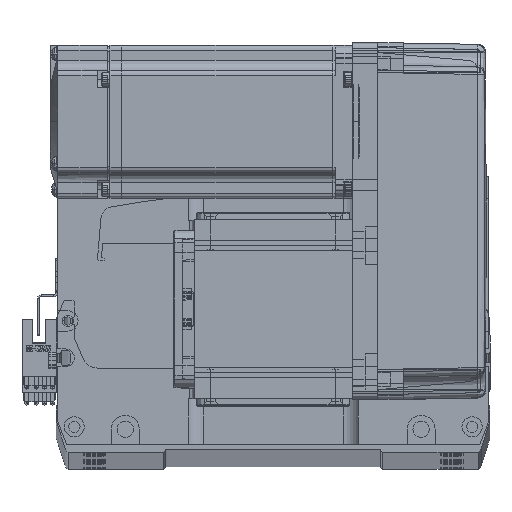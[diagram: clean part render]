
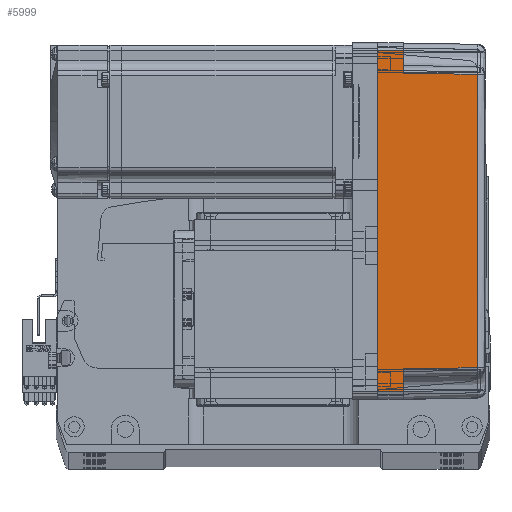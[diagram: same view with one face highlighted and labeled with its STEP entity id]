
A CAD part, top view. The second image highlights one B-rep face of the part: STEP entity #5999.
In plain terms, the highlighted planar face has unit normal (0.018, 0, 1) as drawn and (0, -1, 0.017) by its records, which use the part's own axes.
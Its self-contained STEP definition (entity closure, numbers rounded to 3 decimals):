
#244 = DIRECTION ( 'NONE',  ( 0., -0.017, -1. ) ) ;
#470 = CARTESIAN_POINT ( 'NONE',  ( -66.959, -35.958, 2.39 ) ) ;
#4026 = VERTEX_POINT ( 'NONE', #66691 ) ;
#5544 = EDGE_LOOP ( 'NONE', ( #15750, #24665, #47698, #39884, #71488, #9469, #30905, #62389 ) ) ;
#5999 = ADVANCED_FACE ( 'NONE', ( #45648 ), #67402, .T. ) ;
#6943 = CARTESIAN_POINT ( 'NONE',  ( -66.826, -35.825, 10. ) ) ;
#7637 = LINE ( 'NONE', #37866, #58545 ) ;
#7668 = CARTESIAN_POINT ( 'NONE',  ( -57.495, -35.32, 38.985 ) ) ;
#8315 = EDGE_CURVE ( 'NONE', #58410, #24458, #19275, .T. ) ;
#8329 = DIRECTION ( 'NONE',  ( -0.017, 0.017, 1. ) ) ;
#8974 = EDGE_CURVE ( 'NONE', #42700, #58172, #64795, .T. ) ;
#8986 = EDGE_CURVE ( 'NONE', #4026, #16274, #35351, .T. ) ;
#9469 = ORIENTED_EDGE ( 'NONE', *, *, #64857, .T. ) ;
#11769 = CARTESIAN_POINT ( 'NONE',  ( -19.165, -35.316, 39.181 ) ) ;
#15289 = VECTOR ( 'NONE', #31739, 1000. ) ;
#15750 = ORIENTED_EDGE ( 'NONE', *, *, #8315, .T. ) ;
#16274 = VERTEX_POINT ( 'NONE', #6943 ) ;
#16501 = VECTOR ( 'NONE', #62561, 1000. ) ;
#17588 = VERTEX_POINT ( 'NONE', #28570 ) ;
#17760 = EDGE_CURVE ( 'NONE', #58410, #4026, #22441, .T. ) ;
#17967 = CARTESIAN_POINT ( 'NONE',  ( 67., -36., 0. ) ) ;
#19275 = LINE ( 'NONE', #17967, #34564 ) ;
#22441 = LINE ( 'NONE', #27224, #15289 ) ;
#23050 = DIRECTION ( 'NONE',  ( -1., 0., 0. ) ) ;
#23546 = EDGE_CURVE ( 'NONE', #73737, #42700, #60549, .T. ) ;
#24458 = VERTEX_POINT ( 'NONE', #55090 ) ;
#24665 = ORIENTED_EDGE ( 'NONE', *, *, #69863, .T. ) ;
#25814 = CARTESIAN_POINT ( 'NONE',  ( 67., -36., 0. ) ) ;
#27224 = CARTESIAN_POINT ( 'NONE',  ( 0., -36., 0. ) ) ;
#28570 = CARTESIAN_POINT ( 'NONE',  ( -58., -35.825, 10. ) ) ;
#29009 = CARTESIAN_POINT ( 'NONE',  ( -57.495, -35.32, 38.985 ) ) ;
#30905 = ORIENTED_EDGE ( 'NONE', *, *, #8986, .F. ) ;
#31739 = DIRECTION ( 'NONE',  ( -1., 0., 0. ) ) ;
#34035 = CARTESIAN_POINT ( 'NONE',  ( 57.495, -35.32, 38.985 ) ) ;
#34564 = VECTOR ( 'NONE', #51432, 1000. ) ;
#35351 = LINE ( 'NONE', #470, #16501 ) ;
#36869 = CARTESIAN_POINT ( 'NONE',  ( 58., -35.825, 10. ) ) ;
#37866 = CARTESIAN_POINT ( 'NONE',  ( 70., -35.825, 10. ) ) ;
#38972 = VECTOR ( 'NONE', #23050, 1000. ) ;
#39048 = EDGE_CURVE ( 'NONE', #58172, #17588, #41530, .T. ) ;
#39884 = ORIENTED_EDGE ( 'NONE', *, *, #8974, .T. ) ;
#40555 = DIRECTION ( 'NONE',  ( 0., -1., 0.017 ) ) ;
#41496 = CARTESIAN_POINT ( 'NONE',  ( 57.495, -35.32, 38.985 ) ) ;
#41530 = LINE ( 'NONE', #7668, #47738 ) ;
#42700 = VERTEX_POINT ( 'NONE', #41496 ) ;
#45648 = FACE_OUTER_BOUND ( 'NONE', #5544, .T. ) ;
#46367 = VECTOR ( 'NONE', #8329, 1000. ) ;
#47698 = ORIENTED_EDGE ( 'NONE', *, *, #23546, .T. ) ;
#47738 = VECTOR ( 'NONE', #49085, 1000. ) ;
#49085 = DIRECTION ( 'NONE',  ( -0.017, -0.017, -1. ) ) ;
#51106 = CARTESIAN_POINT ( 'NONE',  ( -57.495, -35.32, 38.985 ) ) ;
#51432 = DIRECTION ( 'NONE',  ( -0.017, 0.017, 1. ) ) ;
#55090 = CARTESIAN_POINT ( 'NONE',  ( 66.826, -35.825, 10. ) ) ;
#58172 = VERTEX_POINT ( 'NONE', #51106 ) ;
#58410 = VERTEX_POINT ( 'NONE', #25814 ) ;
#58545 = VECTOR ( 'NONE', #66182, 1000. ) ;
#59760 = AXIS2_PLACEMENT_3D ( 'NONE', #62138, #40555, #244 ) ;
#60549 = LINE ( 'NONE', #36869, #46367 ) ;
#62138 = CARTESIAN_POINT ( 'NONE',  ( 70., -36., 0. ) ) ;
#62389 = ORIENTED_EDGE ( 'NONE', *, *, #17760, .F. ) ;
#62561 = DIRECTION ( 'NONE',  ( 0.017, 0.017, 1. ) ) ;
#62903 = CARTESIAN_POINT ( 'NONE',  ( 70., -35.825, 10. ) ) ;
#64795 = B_SPLINE_CURVE_WITH_KNOTS ( 'NONE', 3,
 ( #34035, #73645, #11769, #29009 ),
 .UNSPECIFIED., .F., .F.,
 ( 4, 4 ),
 ( 0., 1. ),
 .UNSPECIFIED. ) ;
#64857 = EDGE_CURVE ( 'NONE', #17588, #16274, #69214, .T. ) ;
#66182 = DIRECTION ( 'NONE',  ( -1., 0., 0. ) ) ;
#66691 = CARTESIAN_POINT ( 'NONE',  ( -67., -36., 0. ) ) ;
#67402 = PLANE ( 'NONE',  #59760 ) ;
#69214 = LINE ( 'NONE', #62903, #38972 ) ;
#69863 = EDGE_CURVE ( 'NONE', #24458, #73737, #7637, .T. ) ;
#70533 = CARTESIAN_POINT ( 'NONE',  ( 58., -35.825, 10. ) ) ;
#71488 = ORIENTED_EDGE ( 'NONE', *, *, #39048, .T. ) ;
#73645 = CARTESIAN_POINT ( 'NONE',  ( 19.165, -35.316, 39.181 ) ) ;
#73737 = VERTEX_POINT ( 'NONE', #70533 ) ;
